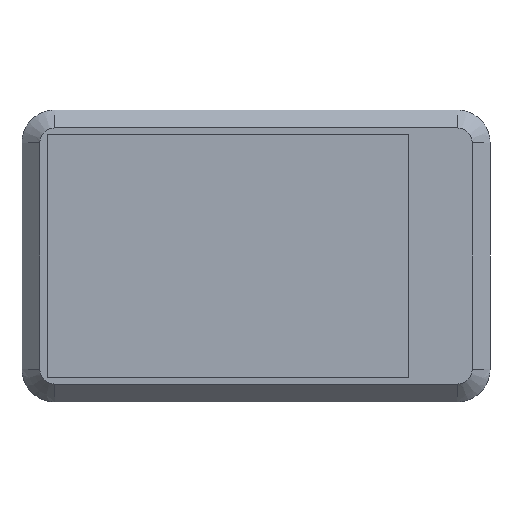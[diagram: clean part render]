
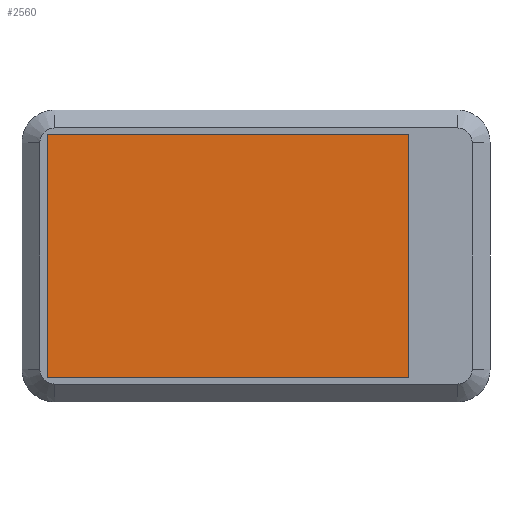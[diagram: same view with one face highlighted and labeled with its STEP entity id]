
A CAD part, front view. The second image highlights one B-rep face of the part: STEP entity #2560.
In plain terms, the highlighted planar face has unit normal (0, -1, 0).
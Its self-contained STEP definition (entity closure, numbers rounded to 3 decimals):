
#20 = EDGE_CURVE ( 'NONE', #626, #2748, #545, .T. ) ;
#66 = CARTESIAN_POINT ( 'NONE',  ( 0., 0.75, 0. ) ) ;
#80 = EDGE_CURVE ( 'NONE', #2763, #626, #1604, .T. ) ;
#90 = VERTEX_POINT ( 'NONE', #2113 ) ;
#102 = EDGE_CURVE ( 'NONE', #90, #2763, #1118, .T. ) ;
#159 = EDGE_CURVE ( 'NONE', #2748, #90, #1174, .T. ) ;
#333 = VECTOR ( 'NONE', #2134, 1000. ) ;
#344 = PLANE ( 'NONE',  #2160 ) ;
#399 = VECTOR ( 'NONE', #2164, 1000. ) ;
#545 = LINE ( 'NONE', #2397, #2218 ) ;
#626 = VERTEX_POINT ( 'NONE', #3239 ) ;
#1118 = LINE ( 'NONE', #2109, #333 ) ;
#1174 = LINE ( 'NONE', #2075, #399 ) ;
#1346 = CARTESIAN_POINT ( 'NONE',  ( -64.3, 0.75, -37.5 ) ) ;
#1347 = EDGE_LOOP ( 'NONE', ( #2468, #2495, #2563, #2673 ) ) ;
#1349 = CARTESIAN_POINT ( 'NONE',  ( 47., 0.75, 37.5 ) ) ;
#1604 = LINE ( 'NONE', #2098, #1681 ) ;
#1681 = VECTOR ( 'NONE', #2126, 1000. ) ;
#1802 = DIRECTION ( 'NONE',  ( 0., 0., -1. ) ) ;
#1893 = DIRECTION ( 'NONE',  ( 0., -1., 0. ) ) ;
#2075 = CARTESIAN_POINT ( 'NONE',  ( -64.3, 0.75, -37.5 ) ) ;
#2098 = CARTESIAN_POINT ( 'NONE',  ( -64.3, 0.75, 37.5 ) ) ;
#2109 = CARTESIAN_POINT ( 'NONE',  ( 47., 0.75, 37.5 ) ) ;
#2113 = CARTESIAN_POINT ( 'NONE',  ( 47., 0.75, -37.5 ) ) ;
#2126 = DIRECTION ( 'NONE',  ( -1., 0., 0. ) ) ;
#2134 = DIRECTION ( 'NONE',  ( 0., 0., 1. ) ) ;
#2160 = AXIS2_PLACEMENT_3D ( 'NONE', #66, #1893, #1802 ) ;
#2164 = DIRECTION ( 'NONE',  ( 1., 0., 0. ) ) ;
#2218 = VECTOR ( 'NONE', #2407, 1000. ) ;
#2397 = CARTESIAN_POINT ( 'NONE',  ( -64.3, 0.75, 37.5 ) ) ;
#2407 = DIRECTION ( 'NONE',  ( 0., 0., -1. ) ) ;
#2468 = ORIENTED_EDGE ( 'NONE', *, *, #20, .T. ) ;
#2495 = ORIENTED_EDGE ( 'NONE', *, *, #159, .T. ) ;
#2560 = ADVANCED_FACE ( 'NONE', ( #2740 ), #344, .T. ) ;
#2563 = ORIENTED_EDGE ( 'NONE', *, *, #102, .T. ) ;
#2673 = ORIENTED_EDGE ( 'NONE', *, *, #80, .T. ) ;
#2740 = FACE_OUTER_BOUND ( 'NONE', #1347, .T. ) ;
#2748 = VERTEX_POINT ( 'NONE', #1346 ) ;
#2763 = VERTEX_POINT ( 'NONE', #1349 ) ;
#3239 = CARTESIAN_POINT ( 'NONE',  ( -64.3, 0.75, 37.5 ) ) ;
